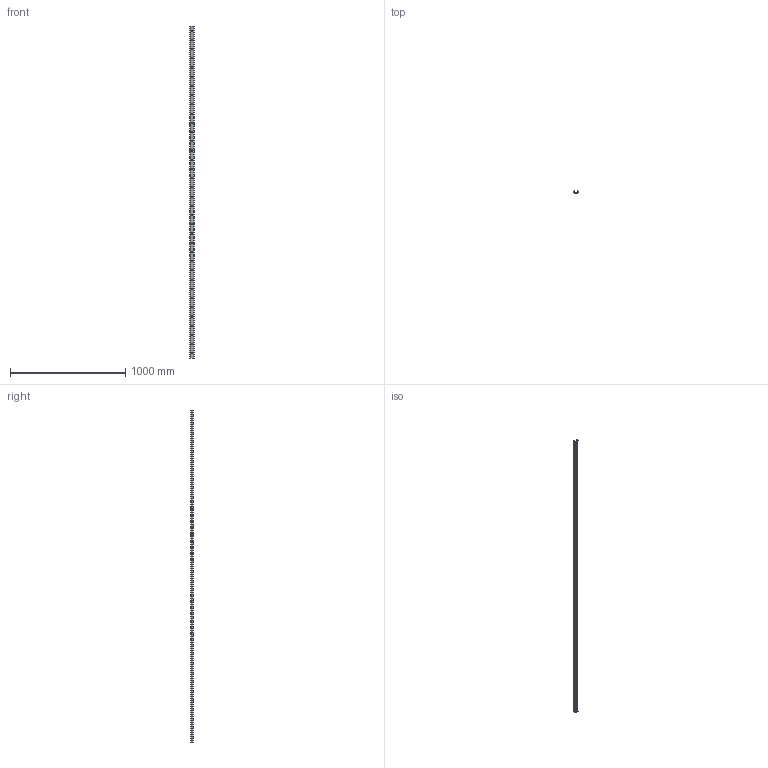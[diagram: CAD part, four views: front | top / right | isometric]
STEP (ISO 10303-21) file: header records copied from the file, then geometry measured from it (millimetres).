
FILE_DESCRIPTION(('STEP AP214'),'1');
FILE_NAME('rail_tex40-2880.stp','2019-03-08T08:33:45',('TraceParts'),('TraceParts S.A.'),'Spatial InterOp 3D',' ',' ');
FILE_SCHEMA(('automotive_design'));
Length unit declared in the file: millimetre
Products named in the file (1): rail_tex40-2880
Bounding box: 39.53 x 21 x 2880 mm (x, y, z)
Volume: 563099.7 mm3; surface area: 396597.4 mm2
Topology: 1 solids, 1 shells, 611 faces, 1584 edges, 1056 vertices
Faces by surface type: plane 428, bspline 99, cylinder 84
Entity records: 38693 total; most frequent: CARTESIAN_POINT 19155, ORIENTED_EDGE 3168, DIRECTION 2580, EDGE_CURVE 1584, LINE 1218, VECTOR 1218, VERTEX_POINT 1056, EDGE_LOOP 764
